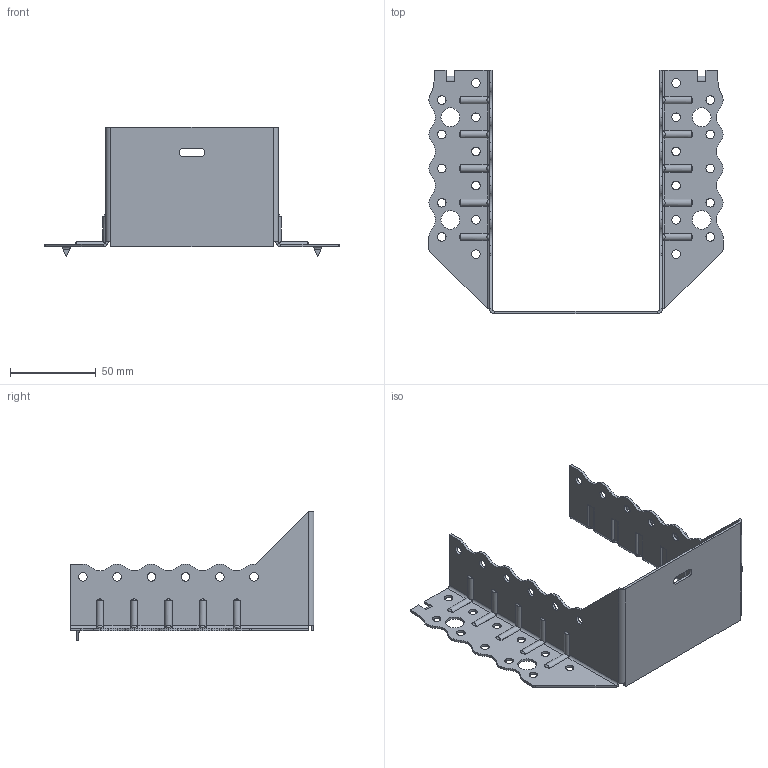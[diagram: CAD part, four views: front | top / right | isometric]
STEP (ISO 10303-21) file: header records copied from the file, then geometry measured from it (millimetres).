
FILE_DESCRIPTION (( 'STEP AP203' ), '1' );
FILE_NAME ('30622TOP.STEP', '2021-04-07T13:46:38', ( '' ), ( '' ), 'SwSTEP 2.0', 'SolidWorks 2013', '' );
FILE_SCHEMA (( 'CONFIG_CONTROL_DESIGN' ));
Length unit declared in the file: millimetre
Products named in the file (1): 30622TOP
Bounding box: 172 x 142.5 x 76 mm (x, y, z)
Volume: 38460.1 mm3; surface area: 54714.5 mm2
Topology: 1 solids, 1 shells, 428 faces, 1154 edges, 728 vertices
Faces by surface type: cylinder 269, plane 119, torus 20, bspline 20
Entity records: 15880 total; most frequent: CARTESIAN_POINT 5007, ORIENTED_EDGE 2308, DIRECTION 2228, EDGE_CURVE 1154, AXIS2_PLACEMENT_3D 813, VERTEX_POINT 728, LINE 602, VECTOR 602
